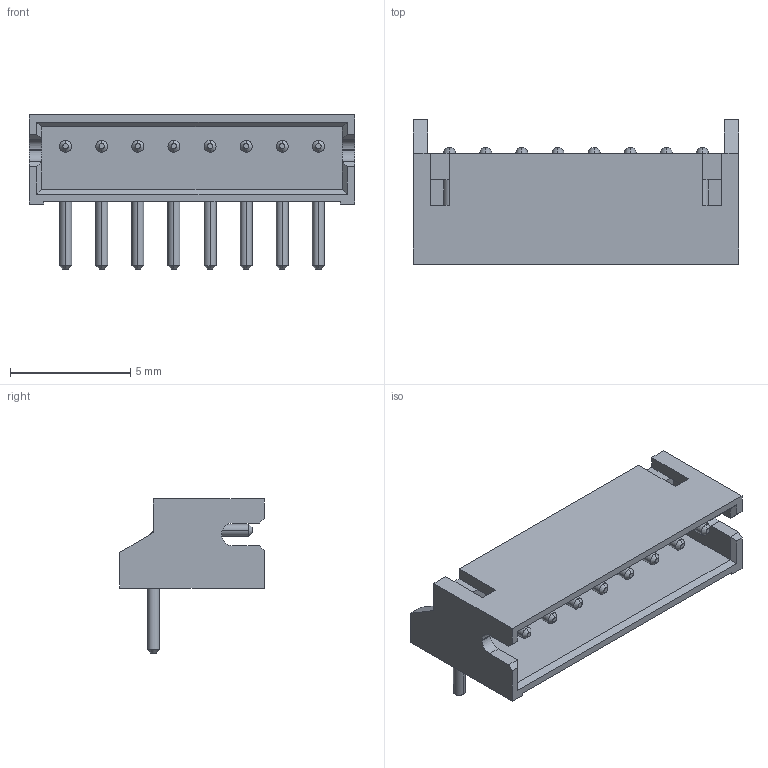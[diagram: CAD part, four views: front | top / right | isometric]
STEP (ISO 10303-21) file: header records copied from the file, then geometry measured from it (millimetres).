
FILE_DESCRIPTION (( 'STEP AP214' ), '1' );
FILE_NAME ('CONN-TH_S8B-ZR-LF-SN.STEP', '2022-08-08T08:07:26', ( '' ), ( '' ), 'SwSTEP 2.0', 'SolidWorks 2020', '' );
FILE_SCHEMA (( 'AUTOMOTIVE_DESIGN' ));
Length unit declared in the file: millimetre
Products named in the file (1): CONN-TH_S8B-ZR-LF-SN
Bounding box: 13.5 x 6 x 6.4 mm (x, y, z)
Volume: 109.5 mm3; surface area: 486.6 mm2
Topology: 1 solids, 1 shells, 404 faces, 1069 edges, 698 vertices
Faces by surface type: plane 222, bspline 98, cylinder 36, cone 32, torus 16
Entity records: 17527 total; most frequent: CARTESIAN_POINT 3622, ORIENTED_EDGE 2138, DIRECTION 1603, EDGE_CURVE 1069, VECTOR 717, LINE 717, VERTEX_POINT 698, AXIS2_PLACEMENT_3D 443
